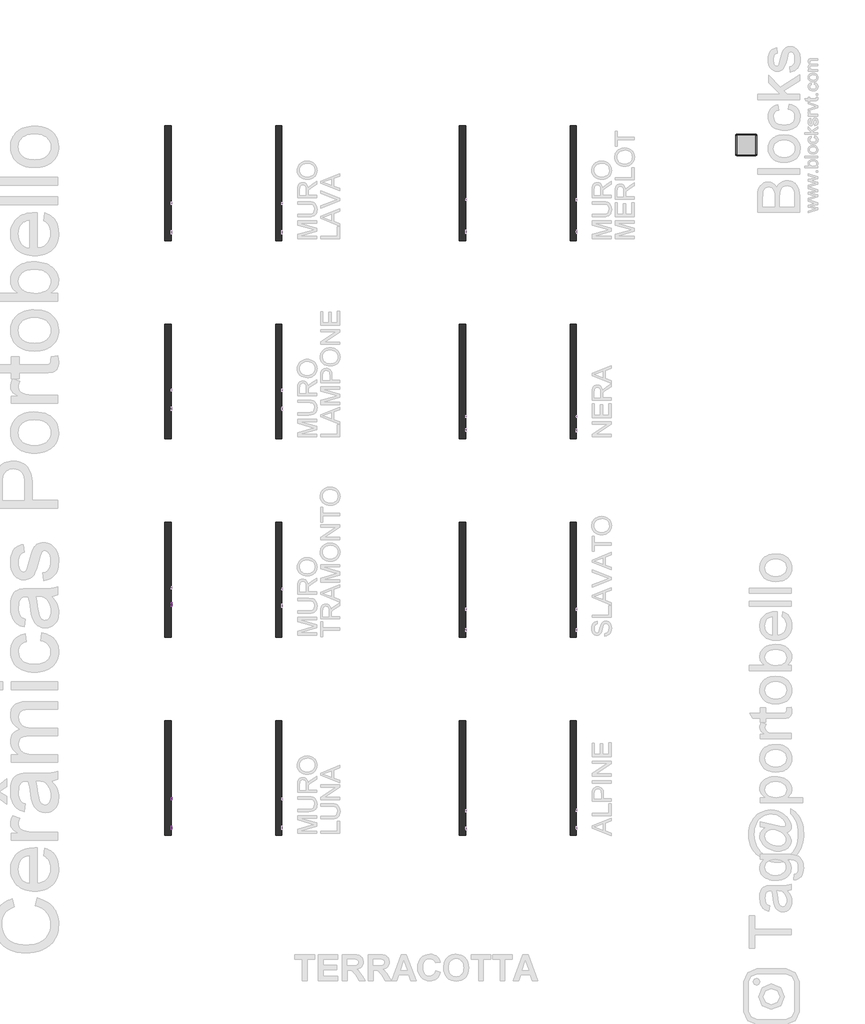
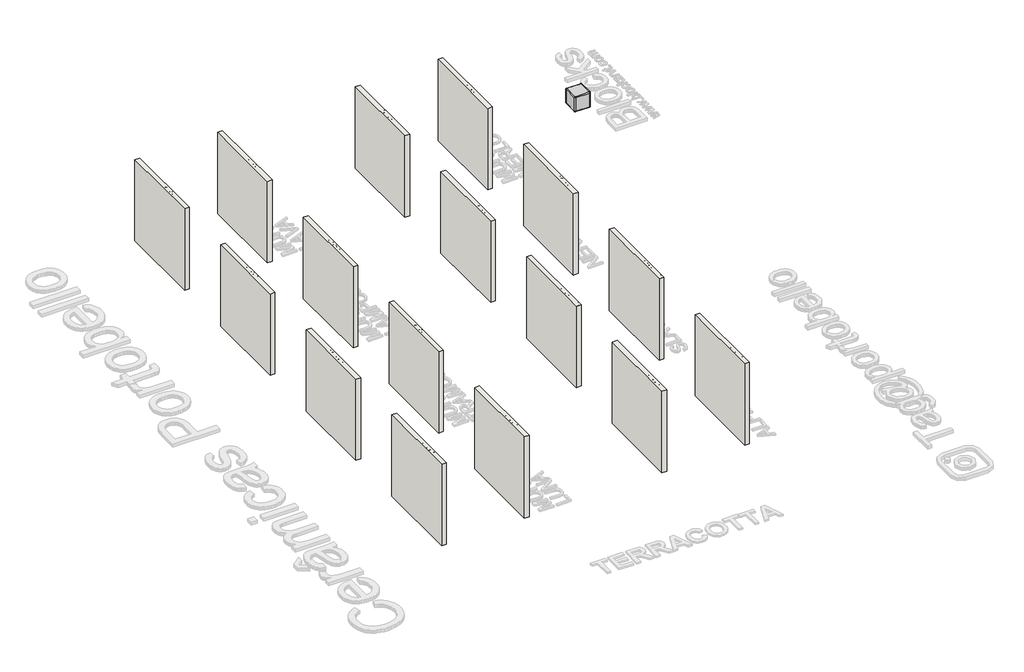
# One storey, part 1 of 11: 16 walls, 3 proxies, 1 furniture element.
"""IFC4 building model written with IfcOpenShell, lengths in millimetres."""

from ifc_helpers import new_model, si_unit, frame, origin, origin_with_axes, place, context, project, spatial, polyline, outline, extrude, transform, mapped, element, save
from components import branco_22256ad2

model = new_model("IFC4")

# Units and contexts
model_context = context("Model", 3, world=origin())
ifc_project = project(units=[si_unit("LENGTHUNIT", "METRE", prefix="MILLI")], contexts=[model_context])

# Site, building, storey
site = spatial("IfcSite", under=ifc_project)
building = spatial("IfcBuilding", under=site)
storey = spatial("IfcBuildingStorey", under=building, Name="PORTOBELLO - SHOWROOM", Elevation=0.0)

# Proxies
placement = place(None, origin())
element("IfcBuildingElementProxy", 1, Name="10mm Arial", ObjectType="10mm Arial", at=placement, inside=storey, context=model_context, shape_type="SweptSolid", body=[
    extrude(outline(polyline([(-9335.5034771, 2554.8621877), (-9335.5034771, 2655.3184979), (-9313.8965412, 2655.3184979), (-9293.3442004, 2584.5134766), (-9289.1993966, 2569.7246204), (-9284.7112363, 2585.7397499), (-9264.502252, 2655.3184979), (-9242.8953162, 2655.3184979), (-9242.8953162, 2554.8621877), (-9255.4523549, 2554.8621877), (-9255.4523549, 2642.7614591), (-9280.6890598, 2554.8621877), (-9297.7097335, 2554.8621877), (-9322.9464383, 2642.7614591), (-9322.9464383, 2554.8621877), (-9335.5034771, 2554.8621877)])), frame((-32979.0012486, 0.0, 0.0), z_axis=(1.0, 0.0, 0.0), x_axis=(0.0, 1.0, 0.0)), (0.0, 0.0, 1.0), 20.0),
    extrude(outline(polyline([(-9175.4012328, 2554.8621877), (-9175.4012328, 2567.5418538), (-9185.2359448, 2556.8548819), (-9198.0627637, 2553.2925579), (-9209.8717757, 2555.7941555), (-9218.0142306, 2562.0726749), (-9221.7543642, 2571.3187757), (-9222.4901282, 2582.9928976), (-9222.4901282, 2628.6347905), (-9209.9330894, 2628.6347905), (-9209.9330894, 2588.903535), (-9209.1727999, 2576.1012416), (-9204.206393, 2568.5841862), (-9194.8499276, 2565.8495967), (-9184.3652907, 2568.6454998), (-9177.4368465, 2576.2606571), (-9175.4012328, 2590.2524357), (-9175.4012328, 2628.6347905), (-9162.844194, 2628.6347905), (-9162.844194, 2554.8621877), (-9175.4012328, 2554.8621877)])), frame((-32979.0012486, 0.0, 0.0), z_axis=(1.0, 0.0, 0.0), x_axis=(0.0, 1.0, 0.0)), (0.0, 0.0, 1.0), 20.0),
    extrude(outline(polyline([(-9145.5782657, 2554.8621877), (-9145.5782657, 2628.6347905), (-9134.5908568, 2628.6347905), (-9134.5908568, 2617.720958), (-9126.7917585, 2627.7763992), (-9118.9436093, 2630.2044204), (-9106.3375196, 2626.3293967), (-9110.5313743, 2615.0722076), (-9119.3605422, 2617.6473816), (-9126.4606647, 2615.1703095), (-9130.9856132, 2608.3031789), (-9133.0212269, 2593.63695), (-9133.0212269, 2554.8621877), (-9145.5782657, 2554.8621877)])), frame((-32979.0012486, 0.0, 0.0), z_axis=(1.0, 0.0, 0.0), x_axis=(0.0, 1.0, 0.0)), (0.0, 0.0, 1.0), 20.0),
    extrude(outline(polyline([(-9101.62863, 2591.7484891), (-9098.9124346, 2609.5355836), (-9090.7638484, 2622.0374401), (-9080.6961445, 2628.1626753), (-9068.6418778, 2630.2044204), (-9055.4502426, 2627.7181512), (-9044.9134891, 2620.2593438), (-9038.0065046, 2608.4166092), (-9035.7041765, 2592.7785587), (-9039.7754039, 2570.4358589), (-9051.6334669, 2557.792981), (-9068.6418778, 2553.2925579), (-9081.9929285, 2555.76963), (-9092.5174193, 2563.2008463), (-9099.3508273, 2575.2919012), (-9101.62863, 2591.7484891)]), holes=[polyline([(-9089.0715913, 2591.7730146), (-9087.6184574, 2580.4085266), (-9083.2590557, 2572.3120571), (-9076.6984935, 2567.4652118), (-9068.6418778, 2565.8495967), (-9060.6220503, 2567.4744088), (-9054.0737508, 2572.3488453), (-9049.7143491, 2580.5526137), (-9048.2612153, 2592.1654221), (-9049.7235462, 2603.1988162), (-9054.110539, 2611.1849212), (-9060.6680355, 2616.0317665), (-9068.6418778, 2617.6473816), (-9076.6984935, 2616.0378979), (-9083.2590557, 2611.2094467), (-9087.6184574, 2603.1313712), (-9089.0715913, 2591.7730146)])]), frame((-32979.0012486, 0.0, 0.0), z_axis=(1.0, 0.0, 0.0), x_axis=(0.0, 1.0, 0.0)), (0.0, 0.0, 1.0), 20.0),
    extrude(outline(polyline([(-8980.7671319, 2554.8621877), (-8980.7671319, 2655.3184979), (-8968.2100931, 2655.3184979), (-8968.2100931, 2567.4192265), (-8917.981938, 2567.4192265), (-8917.981938, 2554.8621877), (-8980.7671319, 2554.8621877)])), frame((-32979.0012486, 0.0, 0.0), z_axis=(1.0, 0.0, 0.0), x_axis=(0.0, 1.0, 0.0)), (0.0, 0.0, 1.0), 20.0),
    extrude(outline(polyline([(-8858.3360039, 2554.8621877), (-8858.3360039, 2567.5418538), (-8868.1707159, 2556.8548819), (-8880.9975348, 2553.2925579), (-8892.8065468, 2555.7941555), (-8900.9490017, 2562.0726749), (-8904.6891353, 2571.3187757), (-8905.4248993, 2582.9928976), (-8905.4248993, 2628.6347905), (-8892.8678605, 2628.6347905), (-8892.8678605, 2588.903535), (-8892.107571, 2576.1012416), (-8887.1411641, 2568.5841862), (-8877.7846987, 2565.8495967), (-8867.3000618, 2568.6454998), (-8860.3716176, 2576.2606571), (-8858.3360039, 2590.2524357), (-8858.3360039, 2628.6347905), (-8845.7789651, 2628.6347905), (-8845.7789651, 2554.8621877), (-8858.3360039, 2554.8621877)])), frame((-32979.0012486, 0.0, 0.0), z_axis=(1.0, 0.0, 0.0), x_axis=(0.0, 1.0, 0.0)), (0.0, 0.0, 1.0), 20.0),
    extrude(outline(polyline([(-8828.5130368, 2554.8621877), (-8828.5130368, 2628.6347905), (-8815.955998, 2628.6347905), (-8815.955998, 2618.3340947), (-8806.354278, 2627.2368389), (-8793.2454162, 2630.2044204), (-8781.3873532, 2627.8131874), (-8773.2939493, 2621.534668), (-8769.5292902, 2612.3008299), (-8768.8671027, 2600.1607241), (-8768.8671027, 2554.8621877), (-8781.4241414, 2554.8621877), (-8781.4241414, 2598.4684669), (-8782.8711439, 2609.5785032), (-8787.9847037, 2615.4523524), (-8796.6054051, 2617.6473816), (-8810.2293016, 2612.7177629), (-8814.5243239, 2605.5747208), (-8815.955998, 2594.004832), (-8815.955998, 2554.8621877), (-8828.5130368, 2554.8621877)])), frame((-32979.0012486, 0.0, 0.0), z_axis=(1.0, 0.0, 0.0), x_axis=(0.0, 1.0, 0.0)), (0.0, 0.0, 1.0), 20.0),
    extrude(outline(polyline([(-8704.512279, 2564.2799668), (-8716.689173, 2555.76963), (-8730.1413913, 2553.2925579), (-8740.6352252, 2554.78248), (-8748.3760755, 2559.2522462), (-8753.1493444, 2566.039669), (-8754.740434, 2574.4825608), (-8752.3369383, 2584.4153747), (-8746.0216308, 2591.6258618), (-8737.2292511, 2595.7461401), (-8726.3644695, 2597.6346011), (-8704.5858554, 2601.9510831), (-8704.512279, 2604.7469863), (-8707.9703697, 2614.0176126), (-8721.8517837, 2617.6473816), (-8734.5559752, 2615.2316232), (-8740.6137654, 2606.6599727), (-8753.1708042, 2608.2296025), (-8747.7384134, 2620.4923357), (-8736.8000554, 2627.6782973), (-8720.2331029, 2630.2044204), (-8705.015051, 2627.9726029), (-8696.4188751, 2622.3685339), (-8692.5683769, 2613.8459343), (-8691.9552402, 2602.8585254), (-8691.9552402, 2587.2358033), (-8691.3175781, 2565.420401), (-8688.8159805, 2554.8621877), (-8701.3730193, 2554.8621877), (-8704.512279, 2564.2799668)]), holes=[polyline([(-8704.512279, 2589.3940444), (-8724.7703142, 2585.5435461), (-8735.5737821, 2583.5079324), (-8740.4666126, 2580.1969945), (-8742.1833953, 2575.3654776), (-8738.4432617, 2568.5719234), (-8727.4681155, 2565.8495967), (-8714.7639239, 2568.8539663), (-8706.5724181, 2576.1257671), (-8704.5858554, 2585.8378517), (-8704.512279, 2589.3940444)])]), frame((-32979.0012486, 0.0, 0.0), z_axis=(1.0, 0.0, 0.0), x_axis=(0.0, 1.0, 0.0)), (0.0, 0.0, 1.0), 20.0),
])
element("IfcBuildingElementProxy", 2, Name="10mm Arial", ObjectType="10mm Arial", at=placement, inside=storey, context=model_context, shape_type="SweptSolid", body=[
    extrude(outline(polyline([(-4658.5960021, 2563.9997397), (-4658.5960021, 2664.4560498), (-4636.9890662, 2664.4560498), (-4616.4367254, 2593.6510285), (-4612.2919216, 2578.8621723), (-4607.8037613, 2594.8773018), (-4587.594777, 2664.4560498), (-4565.9878411, 2664.4560498), (-4565.9878411, 2563.9997397), (-4578.5448799, 2563.9997397), (-4578.5448799, 2651.8990111), (-4603.7815848, 2563.9997397), (-4620.8022584, 2563.9997397), (-4646.0389633, 2651.8990111), (-4646.0389633, 2563.9997397), (-4658.5960021, 2563.9997397)])), frame((-32979.0012486, 0.0, 0.0), z_axis=(1.0, 0.0, 0.0), x_axis=(0.0, 1.0, 0.0)), (0.0, 0.0, 1.0), 20.0),
    extrude(outline(polyline([(-4498.4937578, 2563.9997397), (-4498.4937578, 2576.6794058), (-4508.3284698, 2565.9924338), (-4521.1552887, 2562.4301098), (-4532.9643007, 2564.9317074), (-4541.1067555, 2571.2102268), (-4544.8468892, 2580.4563276), (-4545.5826532, 2592.1304496), (-4545.5826532, 2637.7723424), (-4533.0256144, 2637.7723424), (-4533.0256144, 2598.041087), (-4532.2653249, 2585.2387935), (-4527.298918, 2577.7217381), (-4517.9424526, 2574.9871486), (-4507.4578157, 2577.7830518), (-4500.5293715, 2585.3982091), (-4498.4937578, 2599.3899876), (-4498.4937578, 2637.7723424), (-4485.936719, 2637.7723424), (-4485.936719, 2563.9997397), (-4498.4937578, 2563.9997397)])), frame((-32979.0012486, 0.0, 0.0), z_axis=(1.0, 0.0, 0.0), x_axis=(0.0, 1.0, 0.0)), (0.0, 0.0, 1.0), 20.0),
    extrude(outline(polyline([(-4468.6707907, 2563.9997397), (-4468.6707907, 2637.7723424), (-4457.6833818, 2637.7723424), (-4457.6833818, 2626.8585099), (-4449.8842835, 2636.9139511), (-4442.0361342, 2639.3419723), (-4429.4300445, 2635.4669486), (-4433.6238993, 2624.2097596), (-4442.4530672, 2626.7849335), (-4449.5531897, 2624.3078614), (-4454.0781382, 2617.4407308), (-4456.1137519, 2602.774502), (-4456.1137519, 2563.9997397), (-4468.6707907, 2563.9997397)])), frame((-32979.0012486, 0.0, 0.0), z_axis=(1.0, 0.0, 0.0), x_axis=(0.0, 1.0, 0.0)), (0.0, 0.0, 1.0), 20.0),
    extrude(outline(polyline([(-4424.721155, 2600.8860411), (-4422.0049596, 2618.6731355), (-4413.8563734, 2631.174992), (-4403.7886695, 2637.3002272), (-4391.7344028, 2639.3419723), (-4378.5427676, 2636.8557031), (-4368.0060141, 2629.3968957), (-4361.0990296, 2617.5541611), (-4358.7967015, 2601.9161106), (-4362.8679289, 2579.5734108), (-4374.7259919, 2566.9305329), (-4391.7344028, 2562.4301098), (-4405.0854535, 2564.9071819), (-4415.6099443, 2572.3383982), (-4422.4433523, 2584.4294531), (-4424.721155, 2600.8860411)]), holes=[polyline([(-4412.1641162, 2600.9105665), (-4410.7109824, 2589.5460786), (-4406.3515807, 2581.449609), (-4399.7910185, 2576.6027637), (-4391.7344028, 2574.9871486), (-4383.7145753, 2576.6119607), (-4377.1662758, 2581.4863972), (-4372.8068741, 2589.6901657), (-4371.3537402, 2601.302974), (-4372.8160712, 2612.3363682), (-4377.203064, 2620.3224731), (-4383.7605605, 2625.1693184), (-4391.7344028, 2626.7849335), (-4399.7910185, 2625.1754498), (-4406.3515807, 2620.3469986), (-4410.7109824, 2612.2689231), (-4412.1641162, 2600.9105665)])]), frame((-32979.0012486, 0.0, 0.0), z_axis=(1.0, 0.0, 0.0), x_axis=(0.0, 1.0, 0.0)), (0.0, 0.0, 1.0), 20.0),
    extrude(outline(polyline([(-4278.7455793, 2563.9997397), (-4278.7455793, 2651.8990111), (-4311.7078061, 2651.8990111), (-4311.7078061, 2664.4560498), (-4233.2263138, 2664.4560498), (-4233.2263138, 2651.8990111), (-4266.1885405, 2651.8990111), (-4266.1885405, 2563.9997397), (-4278.7455793, 2563.9997397)])), frame((-32979.0012486, 0.0, 0.0), z_axis=(1.0, 0.0, 0.0), x_axis=(0.0, 1.0, 0.0)), (0.0, 0.0, 1.0), 20.0),
    extrude(outline(polyline([(-4220.669275, 2563.9997397), (-4220.669275, 2637.7723424), (-4209.6818661, 2637.7723424), (-4209.6818661, 2626.8585099), (-4201.8827678, 2636.9139511), (-4194.0346186, 2639.3419723), (-4181.4285289, 2635.4669486), (-4185.6223836, 2624.2097596), (-4194.4515515, 2626.7849335), (-4201.551674, 2624.3078614), (-4206.0766225, 2617.4407308), (-4208.1122362, 2602.774502), (-4208.1122362, 2563.9997397), (-4220.669275, 2563.9997397)])), frame((-32979.0012486, 0.0, 0.0), z_axis=(1.0, 0.0, 0.0), x_axis=(0.0, 1.0, 0.0)), (0.0, 0.0, 1.0), 20.0),
    extrude(outline(polyline([(-4126.4914842, 2573.4175188), (-4138.6683783, 2564.9071819), (-4152.1205966, 2562.4301098), (-4162.6144305, 2563.9200319), (-4170.3552808, 2568.3897982), (-4175.1285497, 2575.177221), (-4176.7196393, 2583.6201128), (-4174.3161436, 2593.5529266), (-4168.000836, 2600.7634137), (-4159.2084563, 2604.8836921), (-4148.3436748, 2606.772153), (-4126.5650606, 2611.0886351), (-4126.4914842, 2613.8845382), (-4129.949575, 2623.1551645), (-4143.830989, 2626.7849335), (-4156.5351805, 2624.3691751), (-4162.5929707, 2615.7975246), (-4175.1500095, 2617.3671544), (-4169.7176187, 2629.6298876), (-4158.7792607, 2636.8158493), (-4142.2123082, 2639.3419723), (-4126.9942563, 2637.1101549), (-4118.3980804, 2631.5060858), (-4114.5475821, 2622.9834862), (-4113.9344455, 2611.9960773), (-4113.9344455, 2596.3733553), (-4113.2967834, 2574.5579529), (-4110.7951858, 2563.9997397), (-4123.3522246, 2563.9997397), (-4126.4914842, 2573.4175188)]), holes=[polyline([(-4126.4914842, 2598.5315963), (-4146.7495194, 2594.6810981), (-4157.5529874, 2592.6454844), (-4162.4458179, 2589.3345464), (-4164.1626006, 2584.5030295), (-4160.4224669, 2577.7094754), (-4149.4473207, 2574.9871486), (-4136.7431292, 2577.9915182), (-4128.5516234, 2585.263319), (-4126.5650606, 2594.9754037), (-4126.4914842, 2598.5315963)])]), frame((-32979.0012486, 0.0, 0.0), z_axis=(1.0, 0.0, 0.0), x_axis=(0.0, 1.0, 0.0)), (0.0, 0.0, 1.0), 20.0),
    extrude(outline(polyline([(-4096.6685172, 2563.9997397), (-4096.6685172, 2637.7723424), (-4084.1114784, 2637.7723424), (-4084.1114784, 2625.6322366), (-4075.4785142, 2635.5773132), (-4063.1912556, 2639.3419723), (-4050.6096914, 2635.5037368), (-4043.6935099, 2624.7493198), (-4033.8955861, 2635.6938092), (-4021.5224883, 2639.3419723), (-4012.0832494, 2637.8244591), (-4005.1026886, 2633.2719194), (-4000.7892722, 2625.5617259), (-3999.3514667, 2614.5712513), (-3999.3514667, 2563.9997397), (-4011.9085055, 2563.9997397), (-4011.9085055, 2609.1756487), (-4013.0734651, 2619.6602855), (-4017.2918453, 2624.8228962), (-4024.4655442, 2626.7849335), (-4036.8141166, 2621.7572129), (-4040.5021336, 2615.2150448), (-4041.7314726, 2605.6439815), (-4041.7314726, 2563.9997397), (-4054.2885113, 2563.9997397), (-4054.2885113, 2610.5736003), (-4057.1947791, 2622.7382316), (-4066.7229228, 2626.7849335), (-4076.0180745, 2624.0871322), (-4082.198492, 2616.1899321), (-4084.1114784, 2601.2048721), (-4084.1114784, 2563.9997397), (-4096.6685172, 2563.9997397)])), frame((-32979.0012486, 0.0, 0.0), z_axis=(1.0, 0.0, 0.0), x_axis=(0.0, 1.0, 0.0)), (0.0, 0.0, 1.0), 20.0),
    extrude(outline(polyline([(-3983.6551683, 2600.8860411), (-3980.9389729, 2618.6731355), (-3972.7903867, 2631.174992), (-3962.7226827, 2637.3002272), (-3950.668416, 2639.3419723), (-3937.4767808, 2636.8557031), (-3926.9400273, 2629.3968957), (-3920.0330429, 2617.5541611), (-3917.7307147, 2601.9161106), (-3921.8019421, 2579.5734108), (-3933.6600051, 2566.9305329), (-3950.668416, 2562.4301098), (-3964.0194668, 2564.9071819), (-3974.5439575, 2572.3383982), (-3981.3773656, 2584.4294531), (-3983.6551683, 2600.8860411)]), holes=[polyline([(-3971.0981295, 2600.9105665), (-3969.6449956, 2589.5460786), (-3965.285594, 2581.449609), (-3958.7250317, 2576.6027637), (-3950.668416, 2574.9871486), (-3942.6485885, 2576.6119607), (-3936.100289, 2581.4863972), (-3931.7408874, 2589.6901657), (-3930.2877535, 2601.302974), (-3931.7500844, 2612.3363682), (-3936.1370772, 2620.3224731), (-3942.6945738, 2625.1693184), (-3950.668416, 2626.7849335), (-3958.7250317, 2625.1754498), (-3965.285594, 2620.3469986), (-3969.6449956, 2612.2689231), (-3971.0981295, 2600.9105665)])]), frame((-32979.0012486, 0.0, 0.0), z_axis=(1.0, 0.0, 0.0), x_axis=(0.0, 1.0, 0.0)), (0.0, 0.0, 1.0), 20.0),
    extrude(outline(polyline([(-3903.6040461, 2563.9997397), (-3903.6040461, 2637.7723424), (-3891.0470073, 2637.7723424), (-3891.0470073, 2627.4716466), (-3881.4452873, 2636.3743909), (-3868.3364255, 2639.3419723), (-3856.4783625, 2636.9507393), (-3848.3849586, 2630.6722199), (-3844.6202995, 2621.4383819), (-3843.9581119, 2609.298276), (-3843.9581119, 2563.9997397), (-3856.5151507, 2563.9997397), (-3856.5151507, 2607.6060188), (-3857.9621532, 2618.7160551), (-3863.075713, 2624.5899043), (-3871.6964144, 2626.7849335), (-3885.3203109, 2621.8553148), (-3889.6153332, 2614.7122727), (-3891.0470073, 2603.142384), (-3891.0470073, 2563.9997397), (-3903.6040461, 2563.9997397)])), frame((-32979.0012486, 0.0, 0.0), z_axis=(1.0, 0.0, 0.0), x_axis=(0.0, 1.0, 0.0)), (0.0, 0.0, 1.0), 20.0),
    extrude(outline(polyline([(-3800.0084763, 2574.4721138), (-3798.4388464, 2563.6318577), (-3807.8321, 2562.4301098), (-3818.3535251, 2564.5147745), (-3823.6019749, 2569.9839535), (-3825.1225538, 2584.2332494), (-3825.1225538, 2625.2153037), (-3834.5403329, 2625.2153037), (-3834.5403329, 2637.7723424), (-3825.1225538, 2637.7723424), (-3825.1225538, 2655.7004583), (-3812.565515, 2663.0826237), (-3812.565515, 2637.7723424), (-3800.0084763, 2637.7723424), (-3800.0084763, 2625.2153037), (-3812.565515, 2625.2153037), (-3812.565515, 2584.6011314), (-3811.9033274, 2578.1264083), (-3809.7573491, 2575.8332772), (-3805.4776553, 2574.9871486), (-3800.0084763, 2574.4721138)])), frame((-32979.0012486, 0.0, 0.0), z_axis=(1.0, 0.0, 0.0), x_axis=(0.0, 1.0, 0.0)), (0.0, 0.0, 1.0), 20.0),
    extrude(outline(polyline([(-3790.5906972, 2600.8860411), (-3787.8745018, 2618.6731355), (-3779.7259156, 2631.174992), (-3769.6582117, 2637.3002272), (-3757.6039449, 2639.3419723), (-3744.4123097, 2636.8557031), (-3733.8755563, 2629.3968957), (-3726.9685718, 2617.5541611), (-3724.6662436, 2601.9161106), (-3728.7374711, 2579.5734108), (-3740.595534, 2566.9305329), (-3757.6039449, 2562.4301098), (-3770.9549957, 2564.9071819), (-3781.4794864, 2572.3383982), (-3788.3128945, 2584.4294531), (-3790.5906972, 2600.8860411)]), holes=[polyline([(-3778.0336584, 2600.9105665), (-3776.5805245, 2589.5460786), (-3772.2211229, 2581.449609), (-3765.6605606, 2576.6027637), (-3757.6039449, 2574.9871486), (-3749.5841175, 2576.6119607), (-3743.0358179, 2581.4863972), (-3738.6764163, 2589.6901657), (-3737.2232824, 2601.302974), (-3738.6856133, 2612.3363682), (-3743.0726061, 2620.3224731), (-3749.6301027, 2625.1693184), (-3757.6039449, 2626.7849335), (-3765.6605606, 2625.1754498), (-3772.2211229, 2620.3469986), (-3776.5805245, 2612.2689231), (-3778.0336584, 2600.9105665)])]), frame((-32979.0012486, 0.0, 0.0), z_axis=(1.0, 0.0, 0.0), x_axis=(0.0, 1.0, 0.0)), (0.0, 0.0, 1.0), 20.0),
])
element("IfcBuildingElementProxy", 3, Name="10mm Arial Narrow", ObjectType="10mm Arial Narrow", at=placement, inside=storey, context=model_context, shape_type="SweptSolid", body=[
    extrude(outline(polyline([(-8643.368418, 2554.8621877), (-8643.368418, 2655.5807915), (-8612.0715333, 2655.5807915), (-8595.7758318, 2653.7024708), (-8584.3028457, 2644.2220276), (-8580.0131672, 2627.2029188), (-8581.7994756, 2615.1270932), (-8587.1584008, 2605.5006995), (-8596.9021896, 2599.1994411), (-8611.8430889, 2597.0990216), (-8633.6214563, 2597.0990216), (-8633.6214563, 2554.8621877), (-8643.368418, 2554.8621877)]), holes=[polyline([(-8633.6214563, 2608.4704768), (-8610.6501014, 2608.4704768), (-8594.785906, 2613.001291), (-8589.7601289, 2626.6698818), (-8592.2349434, 2636.8356582), (-8598.2125722, 2642.6356081), (-8610.8785458, 2644.2093362), (-8633.6214563, 2644.2093362), (-8633.6214563, 2608.4704768)])]), frame((-32979.0012486, 0.0, 0.0), z_axis=(1.0, 0.0, 0.0), x_axis=(0.0, 1.0, 0.0)), (0.0, 0.0, 1.0), 20.0),
    extrude(outline(polyline([(-8571.8906992, 2591.4132939), (-8569.9362303, 2608.0040695), (-8564.0728237, 2619.9561543), (-8555.214257, 2627.1807089), (-8544.2743078, 2629.5888938), (-8533.4612722, 2627.1807089), (-8524.5773228, 2619.9561543), (-8518.6377681, 2608.1944398), (-8516.6579165, 2592.1747753), (-8518.6028668, 2575.0128887), (-8524.4377179, 2562.8704336), (-8533.2867661, 2555.645879), (-8544.2743078, 2553.2376941), (-8555.134936, 2555.6522247), (-8564.0093669, 2562.8958163), (-8569.9203661, 2574.8542468), (-8571.8906992, 2591.4132939)]), holes=[polyline([(-8562.1437375, 2591.4386767), (-8560.8397007, 2578.8869253), (-8556.9275901, 2570.0156672), (-8551.0863933, 2564.7424086), (-8543.995098, 2562.9846558), (-8537.2750248, 2564.7582728), (-8531.5829515, 2570.079124), (-8527.6993965, 2578.9662462), (-8526.4048781, 2591.4386767), (-8527.708915, 2603.952354), (-8531.6210256, 2612.8109207), (-8537.4622223, 2618.0841793), (-8544.5535177, 2619.8419321), (-8551.3211834, 2618.0746607), (-8557.0037382, 2612.7728466), (-8560.8587377, 2603.9047614), (-8562.1437375, 2591.4386767)])]), frame((-32979.0012486, 0.0, 0.0), z_axis=(1.0, 0.0, 0.0), x_axis=(0.0, 1.0, 0.0)), (0.0, 0.0, 1.0), 20.0),
    extrude(outline(polyline([(-8445.1801977, 2562.9846558), (-8443.5557041, 2553.2376941), (-8450.9166907, 2553.2376941), (-8459.1914551, 2555.3571506), (-8463.5065162, 2561.1571005), (-8464.674121, 2575.8029257), (-8464.674121, 2618.2174385), (-8472.796589, 2618.2174385), (-8472.796589, 2621.4664257), (-8474.4210826, 2616.5929449), (-8481.985131, 2618.2174385), (-8488.0642907, 2615.8949203), (-8491.9351544, 2609.4096372), (-8493.915006, 2594.0023306), (-8493.915006, 2554.8621877), (-8503.6619676, 2554.8621877), (-8503.6619676, 2627.9644002), (-8493.915006, 2627.9644002), (-8493.915006, 2618.2682039), (-8487.6708586, 2627.355215), (-8481.2744151, 2629.5888938), (-8472.796589, 2627.9644002), (-8464.674121, 2627.9644002), (-8464.674121, 2644.2093362), (-8454.9271593, 2652.3318043), (-8454.9271593, 2627.9644002), (-8445.1801977, 2627.9644002), (-8445.1801977, 2618.2174385), (-8454.9271593, 2618.2174385), (-8454.9271593, 2573.569247), (-8454.0641471, 2565.5736925), (-8449.4444934, 2562.9846558), (-8445.1801977, 2562.9846558)])), frame((-32979.0012486, 0.0, 0.0), z_axis=(1.0, 0.0, 0.0), x_axis=(0.0, 1.0, 0.0)), (0.0, 0.0, 1.0), 20.0),
    extrude(outline(polyline([(-8438.6822232, 2591.4132939), (-8436.7277544, 2608.0040695), (-8430.8643478, 2619.9561543), (-8422.005781, 2627.1807089), (-8411.0658319, 2629.5888938), (-8400.2527963, 2627.1807089), (-8391.3688469, 2619.9561543), (-8385.4292921, 2608.1944398), (-8383.4494405, 2592.1747753), (-8385.3943909, 2575.0128887), (-8391.229242, 2562.8704336), (-8400.0782902, 2555.645879), (-8411.0658319, 2553.2376941), (-8421.9264601, 2555.6522247), (-8430.800891, 2562.8958163), (-8436.7118902, 2574.8542468), (-8438.6822232, 2591.4132939)]), holes=[polyline([(-8428.9352616, 2591.4386767), (-8427.6312247, 2578.8869253), (-8423.7191141, 2570.0156672), (-8417.8779174, 2564.7424086), (-8410.7866221, 2562.9846558), (-8404.0665489, 2564.7582728), (-8398.3744756, 2570.079124), (-8394.4909205, 2578.9662462), (-8393.1964022, 2591.4386767), (-8394.5004391, 2603.952354), (-8398.4125496, 2612.8109207), (-8404.2537464, 2618.0841793), (-8411.3450417, 2619.8419321), (-8418.1127075, 2618.0746607), (-8423.7952623, 2612.7728466), (-8427.6502618, 2603.9047614), (-8428.9352616, 2591.4386767)])]), frame((-32979.0012486, 0.0, 0.0), z_axis=(1.0, 0.0, 0.0), x_axis=(0.0, 1.0, 0.0)), (0.0, 0.0, 1.0), 20.0),
    extrude(outline(polyline([(-8360.70653, 2554.8621877), (-8370.4534917, 2554.8621877), (-8370.4534917, 2655.5807915), (-8360.70653, 2655.5807915), (-8360.70653, 2620.1719074), (-8353.3074693, 2627.2536842), (-8344.106236, 2629.5888938), (-8331.2245093, 2625.3880548), (-8321.9471278, 2612.6586244), (-8318.4696962, 2591.9717136), (-8320.4019552, 2575.5173702), (-8326.1987322, 2563.3146311), (-8334.5718545, 2555.7569284), (-8344.2331495, 2553.2376941), (-8353.5739878, 2555.8521135), (-8360.70653, 2563.6192236), (-8360.70653, 2554.8621877)]), holes=[polyline([(-8360.70653, 2591.9717136), (-8358.6251476, 2574.7241604), (-8352.7363583, 2565.9925072), (-8344.2839149, 2562.9846558), (-8338.3411873, 2564.774137), (-8333.10283, 2570.1425808), (-8328.2166578, 2591.5655902), (-8332.925151, 2613.001291), (-8338.169854, 2618.1317718), (-8344.4869766, 2619.8419321), (-8350.4646055, 2618.0524509), (-8355.7569011, 2612.6840071), (-8360.70653, 2591.9717136)])]), frame((-32979.0012486, 0.0, 0.0), z_axis=(1.0, 0.0, 0.0), x_axis=(0.0, 1.0, 0.0)), (0.0, 0.0, 1.0), 20.0),
    extrude(outline(polyline([(-8266.4859007, 2577.6050983), (-8256.738939, 2575.9806047), (-8260.4384694, 2566.0940381), (-8266.2574563, 2558.9741872), (-8273.9611096, 2554.6718174), (-8283.3146392, 2553.2376941), (-8294.9081932, 2555.6522247), (-8304.0523154, 2562.8958163), (-8309.9918702, 2574.7019505), (-8311.9717218, 2590.8041088), (-8309.9823516, 2607.4710325), (-8304.0142413, 2619.6515618), (-8295.0002055, 2627.1045608), (-8283.8730589, 2629.5888938), (-8273.1901097, 2627.1902274), (-8264.4425923, 2619.9942284), (-8258.6077413, 2608.2547238), (-8256.6627909, 2592.2255408), (-8256.738939, 2588.9765535), (-8302.2247601, 2588.9765535), (-8296.2217486, 2569.5333957), (-8290.2917123, 2564.6218408), (-8283.1877256, 2562.9846558), (-8273.0092579, 2566.6397664), (-8266.4859007, 2577.6050983)]), holes=[polyline([(-8301.5648096, 2598.7235152), (-8266.4859007, 2598.7235152), (-8270.7501964, 2612.9885997), (-8276.575529, 2618.128599), (-8283.7969107, 2619.8419321), (-8296.0059955, 2614.1308218), (-8301.5648096, 2598.7235152)])]), frame((-32979.0012486, 0.0, 0.0), z_axis=(1.0, 0.0, 0.0), x_axis=(0.0, 1.0, 0.0)), (0.0, 0.0, 1.0), 20.0),
    extrude(outline(polyline([(-32959.0012486, -8233.9960285), (-32959.0012486, -8243.7429902), (-32979.0012486, -8243.7429902), (-32979.0012486, -8233.9960285), (-32959.0012486, -8233.9960285)])), frame((0.0, 0.0, 2554.8621877), z_axis=(0.0, 0.0, 1.0), x_axis=(1.0, 0.0, 0.0)), (0.0, 0.0, 1.0), 100.7186038),
    extrude(outline(polyline([(-32959.0012486, -8208.0041308), (-32959.0012486, -8217.7510924), (-32979.0012486, -8217.7510924), (-32979.0012486, -8208.0041308), (-32959.0012486, -8208.0041308)])), frame((0.0, 0.0, 2554.8621877), z_axis=(0.0, 0.0, 1.0), x_axis=(1.0, 0.0, 0.0)), (0.0, 0.0, 1.0), 100.7186038),
    extrude(outline(polyline([(-8196.6326755, 2591.4132939), (-8194.6782066, 2608.0040695), (-8188.8148, 2619.9561543), (-8179.9562333, 2627.1807089), (-8169.0162842, 2629.5888938), (-8158.2032486, 2627.1807089), (-8149.3192992, 2619.9561543), (-8143.3797444, 2608.1944398), (-8141.3998928, 2592.1747753), (-8143.3448432, 2575.0128887), (-8149.1796942, 2562.8704336), (-8158.0287424, 2555.645879), (-8169.0162842, 2553.2376941), (-8179.8769123, 2555.6522247), (-8188.7513432, 2562.8958163), (-8194.6623425, 2574.8542468), (-8196.6326755, 2591.4132939)]), holes=[polyline([(-8186.8857139, 2591.4386767), (-8185.581677, 2578.8869253), (-8181.6695664, 2570.0156672), (-8175.8283697, 2564.7424086), (-8168.7370743, 2562.9846558), (-8162.0170012, 2564.7582728), (-8156.3249278, 2570.079124), (-8152.4413728, 2578.9662462), (-8151.1468545, 2591.4386767), (-8152.4508913, 2603.952354), (-8156.3630019, 2612.8109207), (-8162.2041987, 2618.0841793), (-8169.295494, 2619.8419321), (-8176.0631598, 2618.0746607), (-8181.7457146, 2612.7728466), (-8185.600714, 2603.9047614), (-8186.8857139, 2591.4386767)])]), frame((-32979.0012486, 0.0, 0.0), z_axis=(1.0, 0.0, 0.0), x_axis=(0.0, 1.0, 0.0)), (0.0, 0.0, 1.0), 20.0),
])

# Furniture
branco_shape = branco_22256ad2(model_context)
element("IfcFurniture", 4, ObjectType="Blks_Mob_Blocks Revit_Cubo : Branco", at=placement, inside=storey, context=model_context, shape_type="MappedRepresentation", body=[
    mapped(branco_shape, transform((-19468.5393841, 6753.8334539, 0.0), x_axis=(1.0, 0.0, 0.0), y_axis=(0.0, 1.0, 0.0), z_axis=(0.0, 0.0, 1.0))),
])

# Walls
element("IfcWall", 5, ObjectType="PORTOBELLO - TERRACOTTA - ALPINE - 07X23 - COMPOSIÇÃO 01", at=placement, inside=storey, context=model_context, shape_type="SweptSolid", body=[
    extrude(outline(polyline([(-23608.2301018, -9475.0266924), (-23608.2301018, -6775.0266924), (-23458.2301018, -6775.0266924), (-23458.2301018, -9475.0266924), (-23608.2301018, -9475.0266924)])), origin_with_axes(), (0.0, 0.0, 1.0), 2700.0),
])
element("IfcWall", 6, ObjectType="PORTOBELLO - TERRACOTTA - MURO LAMPONE - 07X26 - COMPOSIÇÃO 01", at=placement, inside=storey, context=model_context, shape_type="SweptSolid", body=[
    extrude(outline(polyline([(-30529.0012485, -155.0266924), (-30529.0012485, 2544.9733076), (-30379.0012485, 2544.9733076), (-30379.0012485, -155.0266924), (-30529.0012485, -155.0266924)])), origin_with_axes(), (0.0, 0.0, 1.0), 2700.0),
])
element("IfcWall", 7, ObjectType="PORTOBELLO - TERRACOTTA - MURO LAVA - 07X26 - COMPOSIÇÃO 01", at=placement, inside=storey, context=model_context, shape_type="SweptSolid", body=[
    extrude(outline(polyline([(-30529.0012485, 4504.9733076), (-30529.0012485, 7204.9733076), (-30379.0012485, 7204.9733076), (-30379.0012485, 4504.9733076), (-30529.0012485, 4504.9733076)])), origin_with_axes(), (0.0, 0.0, 1.0), 2700.0),
])
element("IfcWall", 8, ObjectType="PORTOBELLO - TERRACOTTA - MURO LUNA - 07X26 - COMPOSIÇÃO 01", at=placement, inside=storey, context=model_context, shape_type="SweptSolid", body=[
    extrude(outline(polyline([(-30529.0012485, -9475.0266924), (-30529.0012485, -6775.0266924), (-30379.0012485, -6775.0266924), (-30379.0012485, -9475.0266924), (-30529.0012485, -9475.0266924)])), origin_with_axes(), (0.0, 0.0, 1.0), 2700.0),
])
element("IfcWall", 9, ObjectType="PORTOBELLO - TERRACOTTA - MURO MERLOT - 07X26 - COMPOSIÇÃO 01", at=placement, inside=storey, context=model_context, shape_type="SweptSolid", body=[
    extrude(outline(polyline([(-23608.2301018, 4504.9733076), (-23608.2301018, 7204.9733076), (-23458.2301018, 7204.9733076), (-23458.2301018, 4504.9733076), (-23608.2301018, 4504.9733076)])), origin_with_axes(), (0.0, 0.0, 1.0), 2700.0),
])
element("IfcWall", 10, ObjectType="PORTOBELLO - TERRACOTTA - MURO TRAMONTO - 07X26 - COMPOSIÇÃO 01", at=placement, inside=storey, context=model_context, shape_type="SweptSolid", body=[
    extrude(outline(polyline([(-30529.0012485, -4815.0266924), (-30529.0012485, -2115.0266924), (-30379.0012485, -2115.0266924), (-30379.0012485, -4815.0266924), (-30529.0012485, -4815.0266924)])), origin_with_axes(), (0.0, 0.0, 1.0), 2700.0),
])
element("IfcWall", 11, ObjectType="PORTOBELLO - TERRACOTTA - NERA - 07X23 - COMPOSIÇÃO 01", at=placement, inside=storey, context=model_context, shape_type="SweptSolid", body=[
    extrude(outline(polyline([(-23608.2301018, -155.0266924), (-23608.2301018, 2544.9733076), (-23458.2301018, 2544.9733076), (-23458.2301018, -155.0266924), (-23608.2301018, -155.0266924)])), origin_with_axes(), (0.0, 0.0, 1.0), 2700.0),
])
element("IfcWall", 12, ObjectType="PORTOBELLO - TERRACOTTA - SLAVATO - 07X23 - COMPOSIÇÃO 01", at=placement, inside=storey, context=model_context, shape_type="SweptSolid", body=[
    extrude(outline(polyline([(-23608.2301018, -4815.0266924), (-23608.2301018, -2115.0266924), (-23458.2301018, -2115.0266924), (-23458.2301018, -4815.0266924), (-23608.2301018, -4815.0266924)])), origin_with_axes(), (0.0, 0.0, 1.0), 2700.0),
])
element("IfcWall", 13, ObjectType="PORTOBELLO - TERRACOTTA - ALPINE - 07X23 - COMPOSIÇÃO 02", at=placement, inside=storey, context=model_context, shape_type="SweptSolid", body=[
    extrude(outline(polyline([(-26208.2301018, -9475.0266924), (-26208.2301018, -6775.0266924), (-26058.2301018, -6775.0266924), (-26058.2301018, -9475.0266924), (-26208.2301018, -9475.0266924)])), origin_with_axes(), (0.0, 0.0, 1.0), 2700.0),
])
element("IfcWall", 14, ObjectType="PORTOBELLO - TERRACOTTA - MURO LAMPONE - 07X26 - COMPOSIÇÃO 02", at=placement, inside=storey, context=model_context, shape_type="SweptSolid", body=[
    extrude(outline(polyline([(-33129.0012485, -155.0266924), (-33129.0012485, 2544.9733076), (-32979.0012485, 2544.9733076), (-32979.0012485, -155.0266924), (-33129.0012485, -155.0266924)])), origin_with_axes(), (0.0, 0.0, 1.0), 2700.0),
])
element("IfcWall", 15, ObjectType="PORTOBELLO - TERRACOTTA - MURO LAVA - 07X26 - COMPOSIÇÃO 02", at=placement, inside=storey, context=model_context, shape_type="SweptSolid", body=[
    extrude(outline(polyline([(-33129.0012485, 4504.9733076), (-33129.0012485, 7204.9733076), (-32979.0012485, 7204.9733076), (-32979.0012485, 4504.9733076), (-33129.0012485, 4504.9733076)])), origin_with_axes(), (0.0, 0.0, 1.0), 2700.0),
])
element("IfcWall", 16, ObjectType="PORTOBELLO - TERRACOTTA - MURO LUNA - 07X26 - COMPOSIÇÃO 02", at=placement, inside=storey, context=model_context, shape_type="SweptSolid", body=[
    extrude(outline(polyline([(-33129.0012485, -9475.0266924), (-33129.0012485, -6775.0266924), (-32979.0012485, -6775.0266924), (-32979.0012485, -9475.0266924), (-33129.0012485, -9475.0266924)])), origin_with_axes(), (0.0, 0.0, 1.0), 2700.0),
])
element("IfcWall", 17, ObjectType="PORTOBELLO - TERRACOTTA - MURO MERLOT - 07X26 - COMPOSIÇÃO 02", at=placement, inside=storey, context=model_context, shape_type="SweptSolid", body=[
    extrude(outline(polyline([(-26208.2301018, 4504.9733076), (-26208.2301018, 7204.9733076), (-26058.2301018, 7204.9733076), (-26058.2301018, 4504.9733076), (-26208.2301018, 4504.9733076)])), origin_with_axes(), (0.0, 0.0, 1.0), 2700.0),
])
element("IfcWall", 18, ObjectType="PORTOBELLO - TERRACOTTA - MURO TRAMONTO - 07X26 - COMPOSIÇÃO 02", at=placement, inside=storey, context=model_context, shape_type="SweptSolid", body=[
    extrude(outline(polyline([(-33129.0012485, -4815.0266924), (-33129.0012485, -2115.0266924), (-32979.0012485, -2115.0266924), (-32979.0012485, -4815.0266924), (-33129.0012485, -4815.0266924)])), origin_with_axes(), (0.0, 0.0, 1.0), 2700.0),
])
element("IfcWall", 19, ObjectType="PORTOBELLO - TERRACOTTA - NERA - 07X23 - COMPOSIÇÃO 02", at=placement, inside=storey, context=model_context, shape_type="SweptSolid", body=[
    extrude(outline(polyline([(-26208.2301018, -155.0266924), (-26208.2301018, 2544.9733076), (-26058.2301018, 2544.9733076), (-26058.2301018, -155.0266924), (-26208.2301018, -155.0266924)])), origin_with_axes(), (0.0, 0.0, 1.0), 2700.0),
])
element("IfcWall", 20, ObjectType="PORTOBELLO - TERRACOTTA - SLAVATO - 07X23 - COMPOSIÇÃO 02", at=placement, inside=storey, context=model_context, shape_type="SweptSolid", body=[
    extrude(outline(polyline([(-26208.2301018, -4815.0266924), (-26208.2301018, -2115.0266924), (-26058.2301018, -2115.0266924), (-26058.2301018, -4815.0266924), (-26208.2301018, -4815.0266924)])), origin_with_axes(), (0.0, 0.0, 1.0), 2700.0),
])

save(model, "model.ifc")
